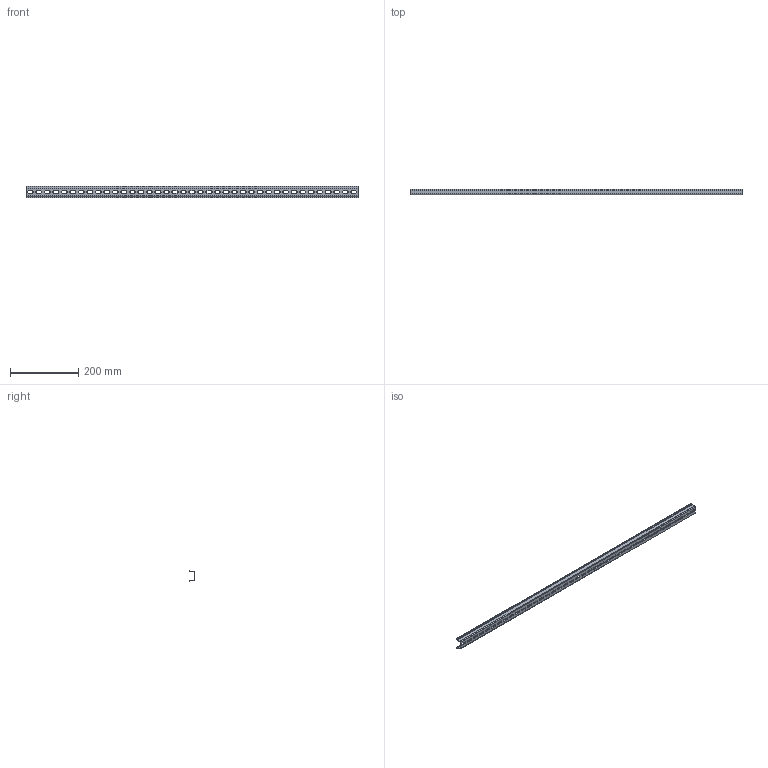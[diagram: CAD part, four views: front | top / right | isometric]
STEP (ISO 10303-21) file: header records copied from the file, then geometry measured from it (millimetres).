
FILE_DESCRIPTION (( 'STEP AP203' ), '1' );
FILE_NAME ('DIN 15.975 DIN-ðåéêà.STEP', '2023-10-27T14:11:13', ( '' ), ( '' ), 'SwSTEP 2.0', 'SolidWorks 2019', '' );
FILE_SCHEMA (( 'CONFIG_CONTROL_DESIGN' ));
Length unit declared in the file: millimetre
Products named in the file (1): DIN 15.975 DIN-ðåéêà
Bounding box: 975 x 15 x 35 mm (x, y, z)
Volume: 64933.5 mm3; surface area: 112710.8 mm2
Topology: 1 solids, 1 shells, 194 faces, 544 edges, 352 vertices
Faces by surface type: plane 108, cylinder 86
Entity records: 6477 total; most frequent: DIRECTION 1106, CARTESIAN_POINT 1091, ORIENTED_EDGE 1088, EDGE_CURVE 544, VECTOR 372, LINE 372, AXIS2_PLACEMENT_3D 367, VERTEX_POINT 352
